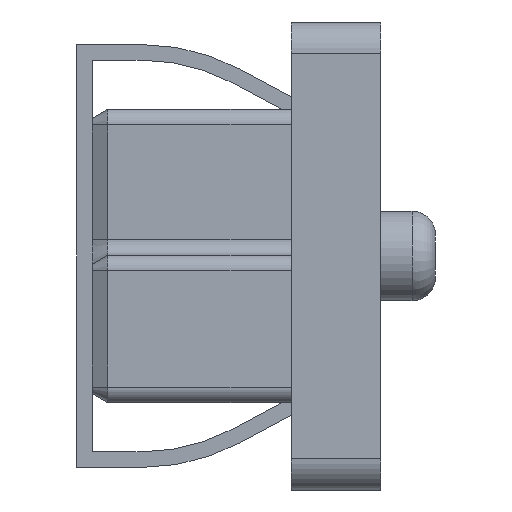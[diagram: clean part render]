
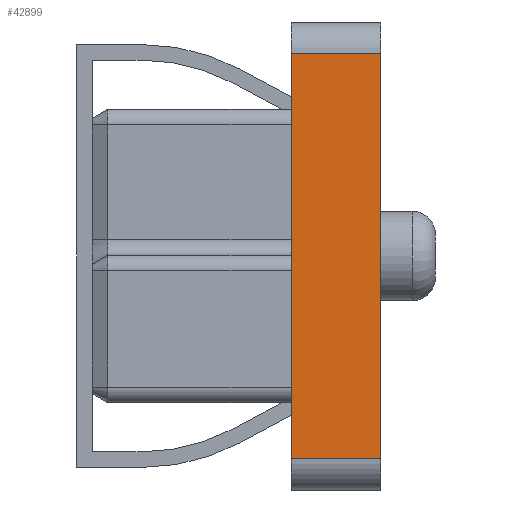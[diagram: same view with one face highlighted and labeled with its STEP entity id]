
A CAD part, left-side view. The second image highlights one B-rep face of the part: STEP entity #42899.
In plain terms, the highlighted planar face has unit normal (-1, 0, 0).
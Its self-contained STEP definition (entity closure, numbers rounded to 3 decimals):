
#3625 = ORIENTED_EDGE ( 'NONE', *, *, #12878, .F. ) ;
#7711 = DIRECTION ( 'NONE',  ( 0., 0., -1. ) ) ;
#10982 = LINE ( 'NONE', #63421, #90664 ) ;
#12878 = EDGE_CURVE ( 'NONE', #64008, #86343, #77894, .T. ) ;
#15410 = CARTESIAN_POINT ( 'NONE',  ( -14.065, 2.915, 2.6 ) ) ;
#19433 = CARTESIAN_POINT ( 'NONE',  ( -14.065, 4.065, -3. ) ) ;
#22903 = ORIENTED_EDGE ( 'NONE', *, *, #71205, .F. ) ;
#26229 = LINE ( 'NONE', #19433, #34174 ) ;
#26848 = CARTESIAN_POINT ( 'NONE',  ( -14.065, 2.915, -2.6 ) ) ;
#27419 = AXIS2_PLACEMENT_3D ( 'NONE', #72667, #29934, #65368 ) ;
#29060 = CARTESIAN_POINT ( 'NONE',  ( -14.065, 4.065, 2.6 ) ) ;
#29934 = DIRECTION ( 'NONE',  ( 1., 0., 0. ) ) ;
#34174 = VECTOR ( 'NONE', #84991, 1000. ) ;
#42899 = ADVANCED_FACE ( 'NONE', ( #81391 ), #95945, .F. ) ;
#50257 = EDGE_CURVE ( 'NONE', #64008, #50784, #26229, .T. ) ;
#50784 = VERTEX_POINT ( 'NONE', #58150 ) ;
#58150 = CARTESIAN_POINT ( 'NONE',  ( -14.065, 4.065, -2.6 ) ) ;
#62423 = ORIENTED_EDGE ( 'NONE', *, *, #50257, .T. ) ;
#63421 = CARTESIAN_POINT ( 'NONE',  ( -14.065, 6.615, -2.6 ) ) ;
#64008 = VERTEX_POINT ( 'NONE', #29060 ) ;
#65368 = DIRECTION ( 'NONE',  ( 0., 0., -1. ) ) ;
#66973 = CARTESIAN_POINT ( 'NONE',  ( -14.065, 2.915, 3. ) ) ;
#70725 = DIRECTION ( 'NONE',  ( 0., 1., 0. ) ) ;
#71205 = EDGE_CURVE ( 'NONE', #86343, #76888, #89760, .T. ) ;
#71568 = CARTESIAN_POINT ( 'NONE',  ( -14.065, 2.915, 2.6 ) ) ;
#72667 = CARTESIAN_POINT ( 'NONE',  ( -14.065, 6.615, 3. ) ) ;
#76888 = VERTEX_POINT ( 'NONE', #26848 ) ;
#77894 = LINE ( 'NONE', #71568, #93462 ) ;
#79810 = DIRECTION ( 'NONE',  ( 0., -1., 0. ) ) ;
#80970 = VECTOR ( 'NONE', #7711, 1000. ) ;
#81391 = FACE_OUTER_BOUND ( 'NONE', #84491, .T. ) ;
#84491 = EDGE_LOOP ( 'NONE', ( #62423, #90959, #22903, #3625 ) ) ;
#84991 = DIRECTION ( 'NONE',  ( 0., 0., -1. ) ) ;
#86343 = VERTEX_POINT ( 'NONE', #15410 ) ;
#88510 = EDGE_CURVE ( 'NONE', #76888, #50784, #10982, .T. ) ;
#89760 = LINE ( 'NONE', #66973, #80970 ) ;
#90664 = VECTOR ( 'NONE', #70725, 1000. ) ;
#90959 = ORIENTED_EDGE ( 'NONE', *, *, #88510, .F. ) ;
#93462 = VECTOR ( 'NONE', #79810, 1000. ) ;
#95945 = PLANE ( 'NONE',  #27419 ) ;
